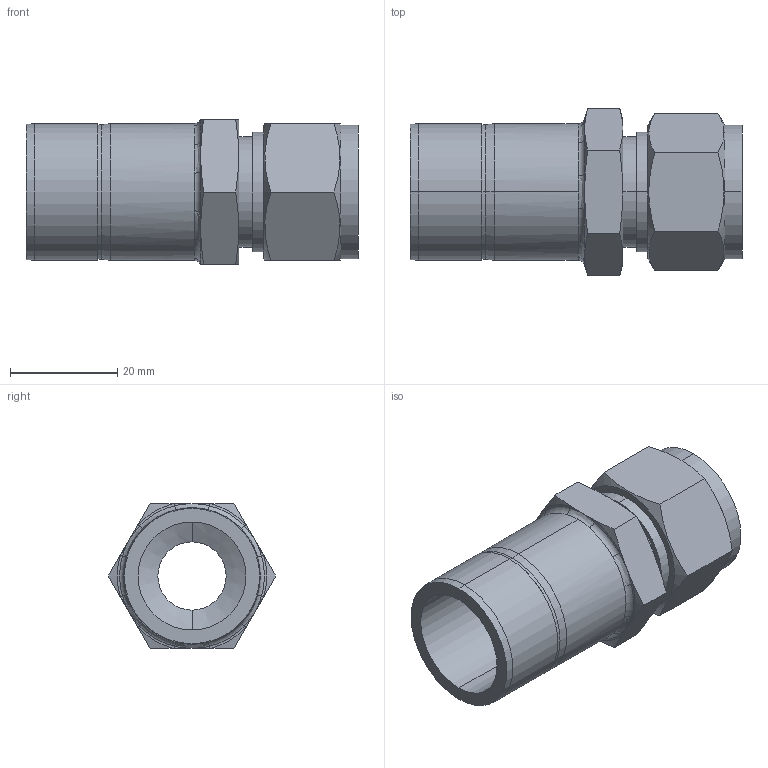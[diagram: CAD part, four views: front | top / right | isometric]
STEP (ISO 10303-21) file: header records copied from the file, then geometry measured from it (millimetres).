
FILE_DESCRIPTION (( 'STEP AP203' ), '1' );
FILE_NAME ('DRE10-16 SS.STEP', '2009-09-08T08:38:38', ( ' ' ), ( '' ), 'SwSTEP 2.0', 'SolidWorks 2008', '' );
FILE_SCHEMA (( 'CONFIG_CONTROL_DESIGN' ));
Length unit declared in the file: millimetre
Products named in the file (1): DRE10-16 SS
Bounding box: 61.8 x 31.17 x 26.99 mm (x, y, z)
Volume: 17209.1 mm3; surface area: 9741.7 mm2
Topology: 1 solids, 1 shells, 78 faces, 176 edges, 104 vertices
Faces by surface type: cone 24, plane 24, cylinder 18, bspline 6, torus 6
Entity records: 2637 total; most frequent: CARTESIAN_POINT 881, ORIENTED_EDGE 352, DIRECTION 348, EDGE_CURVE 176, AXIS2_PLACEMENT_3D 147, VERTEX_POINT 104, EDGE_LOOP 84, ADVANCED_FACE 78
